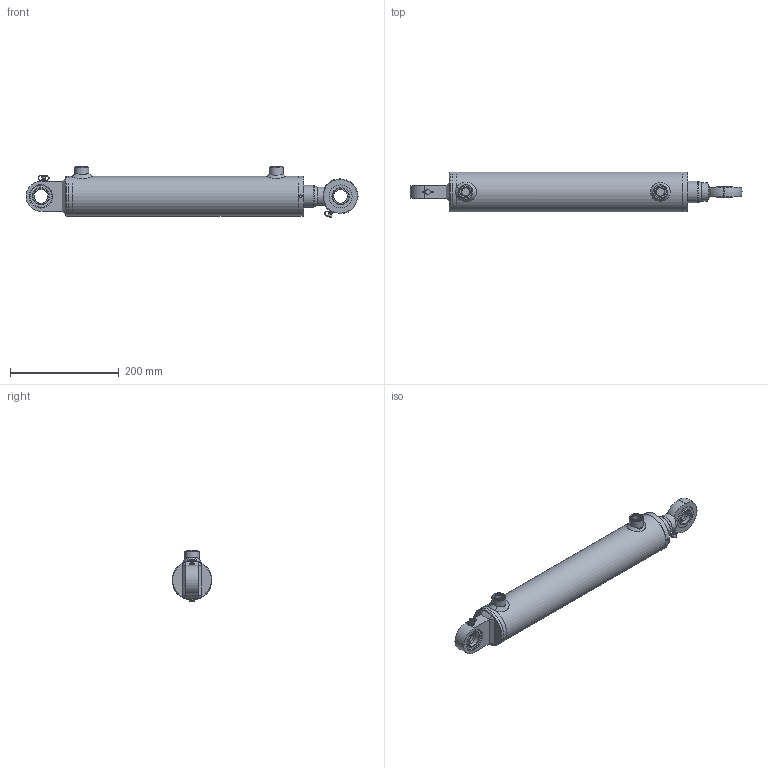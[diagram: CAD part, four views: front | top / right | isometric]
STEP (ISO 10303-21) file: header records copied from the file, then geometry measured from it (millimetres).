
FILE_DESCRIPTION( ( 'Unknown' ), '1' );
FILE_NAME( 'E:/LIBRERIA_3d/CILINDRI/HMB/HMB063400300.stp', 'Unknown', ( 'Unknown' ), ( 'Unknown' ), 'PSStep 17.0.49', 'Unknown', ' ' );
FILE_SCHEMA( ( 'AUTOMOTIVE_DESIGN { 1 0 10303 214 1 1 1 1 }' ) );
Length unit declared in the file: millimetre
Products named in the file (38): CG07306340; CSTSF025C0; tsc25c_CORPO; AN00006001; CSTSF025N0; An00006001; CSTS025N_CORPO; CSAI002042; CSAI002042-oa0; CT00063024; STL0630730300-oa7; Saldatura d'angolo 1-oa5; MAT_PRIMA_TUBO_FT07306300-oa6; CBSC220600; HM0063400300; Saldatura con preparazione 1-oa3; Saldatura d'angolo 1-oa4; CBS0600000; CF00063073; CDA0002420; APG0600000; SBL0400630300; CSTS025C00; cge0250000; APGR013000; CSTS025N00; CGE0250000; Assem1; CSCS004010; Saldatura d'angolo 1-oa1; Saldatura d'angolo 2-oa2
Assembly tree (33 placements, depth 4):
  Saldatura d'angolo 1-oa5
  Saldatura d'angolo 1-oa5
  Saldatura d'angolo 1-oa4
  Saldatura d'angolo 1-oa4
  Assem1
    CSCS004010
    APGR013000  x2
    CSTS025C00
      cge0250000
      APGR013000
      CSTSF025C0
        tsc25c_CORPO
        AN00006001
    CSTS025N00
      CGE0250000
      APGR013000
      CSTSF025N0
        An00006001
        CSTS025N_CORPO
        CSAI002042
        CSAI002042-oa0
    HM0063400300
      Saldatura con preparazione 1-oa3
      Saldatura con preparazione 1-oa3
      CBS0600000
      CF00063073
      CDA0002420
      APG0600000  x2
      SBL0400630300
      CG07306340
        CG07306340
      CT00063024
        CT00063024
      STL0630730300-oa7
        MAT_PRIMA_TUBO_FT07306300-oa6
        CBSC220600
Bounding box: 609.5 x 73 x 95.16 mm (x, y, z)
Volume: 1344423.2 mm3; surface area: 371268.2 mm2
Topology: 33 solids, 33 shells, 407 faces, 850 edges, 532 vertices
Faces by surface type: plane 152, cylinder 103, bspline 54, torus 46, cone 45, sphere 7
Full cylindrical faces by diameter (mm): 2 x4, 4 x1, 4.25 x1, 5 x12, 6 x4, 7 x2, 8 x4, 9 x4, 14.95 x2, 16 x2, 16.6 x2, 22 x2, 23.4 x1, 24 x5, 25 x4, 26 x2, 28.5 x1, 33.5 x3, 36 x1, 40 x6, 42 x9, 43 x1, 47 x1, 48 x1, 48.6 x1, 58 x1, 58.39 x2, 61.63 x2, 62.9 x1, 63 x1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
Entity records: 15216 total; most frequent: CARTESIAN_POINT 6040, DIRECTION 1354, ORIENTED_EDGE 952, AXIS2_PLACEMENT_3D 620, EDGE_LOOP 610, FACE_OUTER_BOUND 487, EDGE_CURVE 476, VERTEX_POINT 398
